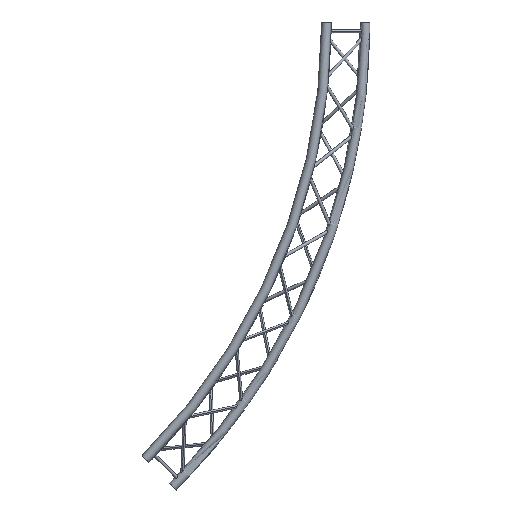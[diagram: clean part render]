
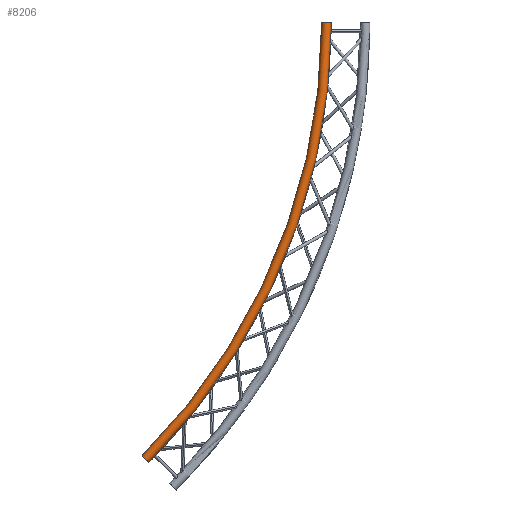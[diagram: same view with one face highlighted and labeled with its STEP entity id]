
A CAD part, front view. The second image highlights one B-rep face of the part: STEP entity #8206.
In plain terms, the highlighted toroidal (fillet/blend) face has major radius 3269.75 mm and minor radius 25 mm.
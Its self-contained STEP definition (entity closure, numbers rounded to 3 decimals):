
#1994 = DIRECTION ( 'NONE',  ( 0., 0., -1. ) ) ;
#1995 = DIRECTION ( 'NONE',  ( 0., -1., 0. ) ) ;
#1996 = CARTESIAN_POINT ( 'NONE',  ( 0., -118.5, 0. ) ) ;
#1997 = AXIS2_PLACEMENT_3D ( 'NONE', #1996, #1995, #1994 ) ;
#1998 = TOROIDAL_SURFACE ( 'NONE', #1997, 3269.752, 25. ) ;
#2111 = FACE_OUTER_BOUND ( 'NONE', #8207, .T. ) ;
#2641 = DIRECTION ( 'NONE',  ( 0., 0., -1. ) ) ;
#2642 = DIRECTION ( 'NONE',  ( 0., -1., 0. ) ) ;
#2643 = CARTESIAN_POINT ( 'NONE',  ( 0., -118.5, 0. ) ) ;
#2644 = AXIS2_PLACEMENT_3D ( 'NONE', #2643, #2642, #2641 ) ;
#2651 = CIRCLE ( 'NONE', #2644, 3294.752 ) ;
#2691 = CARTESIAN_POINT ( 'NONE',  ( 3244.752, -118.5, 0. ) ) ;
#3194 = DIRECTION ( 'NONE',  ( 1., 0., 0. ) ) ;
#3195 = DIRECTION ( 'NONE',  ( 0., 0., 1. ) ) ;
#3196 = CARTESIAN_POINT ( 'NONE',  ( 3269.752, -118.5, 0. ) ) ;
#3197 = AXIS2_PLACEMENT_3D ( 'NONE', #3196, #3195, #3194 ) ;
#3198 = CIRCLE ( 'NONE', #3197, 25. ) ;
#4036 = CARTESIAN_POINT ( 'NONE',  ( 2329.741, -118.5, -2329.741 ) ) ;
#4037 = CARTESIAN_POINT ( 'NONE',  ( 2294.386, -118.5, -2294.386 ) ) ;
#4038 = DIRECTION ( 'NONE',  ( 0.707, 0., -0.707 ) ) ;
#4039 = DIRECTION ( 'NONE',  ( 0.707, 0., 0.707 ) ) ;
#4040 = CARTESIAN_POINT ( 'NONE',  ( 2312.064, -118.5, -2312.064 ) ) ;
#4041 = AXIS2_PLACEMENT_3D ( 'NONE', #4040, #4039, #4038 ) ;
#4042 = CIRCLE ( 'NONE', #4041, 25. ) ;
#4065 = DIRECTION ( 'NONE',  ( 0., 0., -1. ) ) ;
#4066 = DIRECTION ( 'NONE',  ( 0., -1., 0. ) ) ;
#4067 = CARTESIAN_POINT ( 'NONE',  ( 0., -118.5, 0. ) ) ;
#4068 = AXIS2_PLACEMENT_3D ( 'NONE', #4067, #4066, #4065 ) ;
#4069 = CIRCLE ( 'NONE', #4068, 3244.752 ) ;
#4160 = CARTESIAN_POINT ( 'NONE',  ( 3294.752, -118.5, 0. ) ) ;
#8206 = ADVANCED_FACE ( 'NONE', ( #2111 ), #1998, .T. ) ;
#8207 = EDGE_LOOP ( 'NONE', ( #8382, #8386, #8421, #8412 ) ) ;
#8268 = EDGE_CURVE ( 'NONE', #8385, #8413, #2651, .T. ) ;
#8275 = VERTEX_POINT ( 'NONE', #2691 ) ;
#8330 = EDGE_CURVE ( 'NONE', #8275, #8413, #3198, .T. ) ;
#8382 = ORIENTED_EDGE ( 'NONE', *, *, #8383, .T. ) ;
#8383 = EDGE_CURVE ( 'NONE', #8384, #8385, #4042, .T. ) ;
#8384 = VERTEX_POINT ( 'NONE', #4037 ) ;
#8385 = VERTEX_POINT ( 'NONE', #4036 ) ;
#8386 = ORIENTED_EDGE ( 'NONE', *, *, #8268, .T. ) ;
#8412 = ORIENTED_EDGE ( 'NONE', *, *, #8416, .F. ) ;
#8413 = VERTEX_POINT ( 'NONE', #4160 ) ;
#8416 = EDGE_CURVE ( 'NONE', #8384, #8275, #4069, .T. ) ;
#8421 = ORIENTED_EDGE ( 'NONE', *, *, #8330, .F. ) ;
